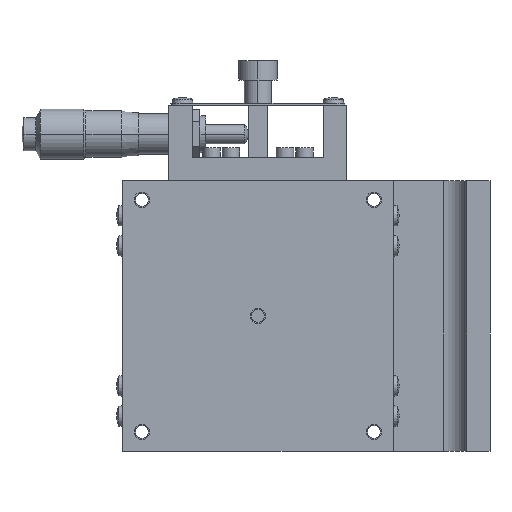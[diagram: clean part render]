
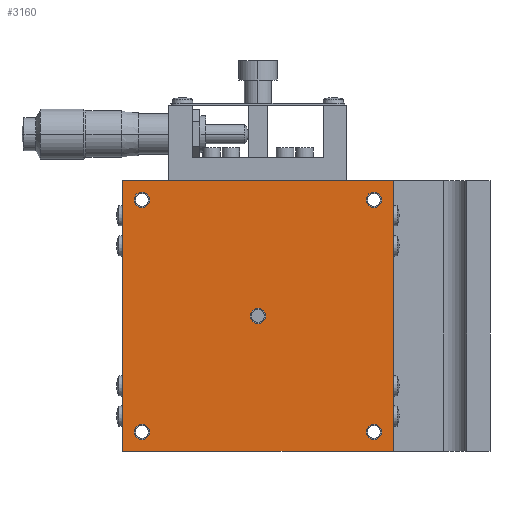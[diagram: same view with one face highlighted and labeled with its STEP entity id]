
A CAD part, left-side view. The second image highlights one B-rep face of the part: STEP entity #3160.
In plain terms, the highlighted planar face has unit normal (-1, 0, 0).
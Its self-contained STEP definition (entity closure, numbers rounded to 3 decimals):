
#953 = VERTEX_POINT ( 'NONE', #6852 ) ;
#955 = EDGE_CURVE ( 'NONE', #953, #956, #6851, .T. ) ;
#956 = VERTEX_POINT ( 'NONE', #6846 ) ;
#965 = EDGE_CURVE ( 'NONE', #1030, #966, #6796, .T. ) ;
#966 = VERTEX_POINT ( 'NONE', #6791 ) ;
#976 = VERTEX_POINT ( 'NONE', #6907 ) ;
#979 = EDGE_CURVE ( 'NONE', #976, #980, #6902, .T. ) ;
#980 = VERTEX_POINT ( 'NONE', #6897 ) ;
#1030 = VERTEX_POINT ( 'NONE', #7135 ) ;
#1156 = VERTEX_POINT ( 'NONE', #7205 ) ;
#1173 = VERTEX_POINT ( 'NONE', #7377 ) ;
#1175 = EDGE_CURVE ( 'NONE', #1173, #1176, #7376, .T. ) ;
#1176 = VERTEX_POINT ( 'NONE', #7371 ) ;
#1179 = EDGE_CURVE ( 'NONE', #1156, #1180, #7414, .T. ) ;
#1180 = VERTEX_POINT ( 'NONE', #7409 ) ;
#2180 = DIRECTION ( 'NONE',  ( 0., -1., 0. ) ) ;
#2181 = VECTOR ( 'NONE', #2180, 1000. ) ;
#2182 = CARTESIAN_POINT ( 'NONE',  ( -35., 95., 35. ) ) ;
#2183 = LINE ( 'NONE', #2182, #2181 ) ;
#2184 = CARTESIAN_POINT ( 'NONE',  ( -35., 95., 35. ) ) ;
#2496 = CARTESIAN_POINT ( 'NONE',  ( -35., 25., 35. ) ) ;
#3127 = EDGE_CURVE ( 'NONE', #3128, #10285, #7686, .T. ) ;
#3128 = VERTEX_POINT ( 'NONE', #7682 ) ;
#3152 = VERTEX_POINT ( 'NONE', #7577 ) ;
#3154 = EDGE_CURVE ( 'NONE', #3152, #9996, #7576, .T. ) ;
#3160 = ADVANCED_FACE ( 'NONE', ( #7659, #7658, #7657, #7656, #7655, #7654 ), #7653, .F. ) ;
#3161 = EDGE_LOOP ( 'NONE', ( #3162, #3164 ) ) ;
#3162 = ORIENTED_EDGE ( 'NONE', *, *, #3163, .F. ) ;
#3163 = EDGE_CURVE ( 'NONE', #1180, #1156, #7648, .T. ) ;
#3164 = ORIENTED_EDGE ( 'NONE', *, *, #1179, .F. ) ;
#3165 = EDGE_LOOP ( 'NONE', ( #3166, #3168 ) ) ;
#3166 = ORIENTED_EDGE ( 'NONE', *, *, #3167, .F. ) ;
#3167 = EDGE_CURVE ( 'NONE', #956, #953, #7643, .T. ) ;
#3168 = ORIENTED_EDGE ( 'NONE', *, *, #955, .F. ) ;
#3169 = EDGE_LOOP ( 'NONE', ( #3170, #3172 ) ) ;
#3170 = ORIENTED_EDGE ( 'NONE', *, *, #3171, .F. ) ;
#3171 = EDGE_CURVE ( 'NONE', #966, #1030, #7637, .T. ) ;
#3172 = ORIENTED_EDGE ( 'NONE', *, *, #965, .F. ) ;
#3173 = EDGE_LOOP ( 'NONE', ( #3174, #3176 ) ) ;
#3174 = ORIENTED_EDGE ( 'NONE', *, *, #3175, .F. ) ;
#3175 = EDGE_CURVE ( 'NONE', #980, #976, #7612, .T. ) ;
#3176 = ORIENTED_EDGE ( 'NONE', *, *, #979, .F. ) ;
#3177 = EDGE_LOOP ( 'NONE', ( #3178, #3180 ) ) ;
#3178 = ORIENTED_EDGE ( 'NONE', *, *, #3179, .F. ) ;
#3179 = EDGE_CURVE ( 'NONE', #1176, #1173, #7608, .T. ) ;
#3180 = ORIENTED_EDGE ( 'NONE', *, *, #1175, .F. ) ;
#3181 = EDGE_LOOP ( 'NONE', ( #3314, #3352, #3348, #3349 ) ) ;
#3314 = ORIENTED_EDGE ( 'NONE', *, *, #3127, .T. ) ;
#3348 = ORIENTED_EDGE ( 'NONE', *, *, #3154, .F. ) ;
#3349 = ORIENTED_EDGE ( 'NONE', *, *, #3350, .T. ) ;
#3350 = EDGE_CURVE ( 'NONE', #3152, #3128, #7720, .T. ) ;
#3352 = ORIENTED_EDGE ( 'NONE', *, *, #9998, .F. ) ;
#6791 = CARTESIAN_POINT ( 'NONE',  ( -35., 90., 32. ) ) ;
#6792 = DIRECTION ( 'NONE',  ( 0., 0., 1. ) ) ;
#6793 = DIRECTION ( 'NONE',  ( -1., 0., 0. ) ) ;
#6794 = CARTESIAN_POINT ( 'NONE',  ( -35., 90., 30. ) ) ;
#6795 = AXIS2_PLACEMENT_3D ( 'NONE', #6794, #6793, #6792 ) ;
#6796 = CIRCLE ( 'NONE', #6795, 2. ) ;
#6846 = CARTESIAN_POINT ( 'NONE',  ( -35., 90., -28. ) ) ;
#6847 = DIRECTION ( 'NONE',  ( 0., 0., 1. ) ) ;
#6848 = DIRECTION ( 'NONE',  ( -1., 0., 0. ) ) ;
#6849 = CARTESIAN_POINT ( 'NONE',  ( -35., 90., -30. ) ) ;
#6850 = AXIS2_PLACEMENT_3D ( 'NONE', #6849, #6848, #6847 ) ;
#6851 = CIRCLE ( 'NONE', #6850, 2. ) ;
#6852 = CARTESIAN_POINT ( 'NONE',  ( -35., 90., -32. ) ) ;
#6897 = CARTESIAN_POINT ( 'NONE',  ( -35., 30., 32. ) ) ;
#6898 = DIRECTION ( 'NONE',  ( 0., 0., 1. ) ) ;
#6899 = DIRECTION ( 'NONE',  ( -1., 0., 0. ) ) ;
#6900 = CARTESIAN_POINT ( 'NONE',  ( -35., 30., 30. ) ) ;
#6901 = AXIS2_PLACEMENT_3D ( 'NONE', #6900, #6899, #6898 ) ;
#6902 = CIRCLE ( 'NONE', #6901, 2. ) ;
#6907 = CARTESIAN_POINT ( 'NONE',  ( -35., 30., 28. ) ) ;
#7135 = CARTESIAN_POINT ( 'NONE',  ( -35., 90., 28. ) ) ;
#7205 = CARTESIAN_POINT ( 'NONE',  ( -35., 60., -2. ) ) ;
#7371 = CARTESIAN_POINT ( 'NONE',  ( -35., 30., -28. ) ) ;
#7372 = DIRECTION ( 'NONE',  ( 0., 0., 1. ) ) ;
#7373 = DIRECTION ( 'NONE',  ( -1., 0., 0. ) ) ;
#7374 = CARTESIAN_POINT ( 'NONE',  ( -35., 30., -30. ) ) ;
#7375 = AXIS2_PLACEMENT_3D ( 'NONE', #7374, #7373, #7372 ) ;
#7376 = CIRCLE ( 'NONE', #7375, 2. ) ;
#7377 = CARTESIAN_POINT ( 'NONE',  ( -35., 30., -32. ) ) ;
#7409 = CARTESIAN_POINT ( 'NONE',  ( -35., 60., 2. ) ) ;
#7410 = DIRECTION ( 'NONE',  ( 0., 0., 1. ) ) ;
#7411 = DIRECTION ( 'NONE',  ( -1., 0., 0. ) ) ;
#7412 = CARTESIAN_POINT ( 'NONE',  ( -35., 60., 0. ) ) ;
#7413 = AXIS2_PLACEMENT_3D ( 'NONE', #7412, #7411, #7410 ) ;
#7414 = CIRCLE ( 'NONE', #7413, 2. ) ;
#7576 = LINE ( 'NONE', #7667, #7666 ) ;
#7577 = CARTESIAN_POINT ( 'NONE',  ( -35., 95., -35. ) ) ;
#7605 = DIRECTION ( 'NONE',  ( 0., 0., 1. ) ) ;
#7606 = DIRECTION ( 'NONE',  ( -1., 0., 0. ) ) ;
#7607 = AXIS2_PLACEMENT_3D ( 'NONE', #7613, #7606, #7605 ) ;
#7608 = CIRCLE ( 'NONE', #7607, 2. ) ;
#7609 = DIRECTION ( 'NONE',  ( 0., 0., 1. ) ) ;
#7610 = DIRECTION ( 'NONE',  ( -1., 0., 0. ) ) ;
#7611 = AXIS2_PLACEMENT_3D ( 'NONE', #7638, #7610, #7609 ) ;
#7612 = CIRCLE ( 'NONE', #7611, 2. ) ;
#7613 = CARTESIAN_POINT ( 'NONE',  ( -35., 30., -30. ) ) ;
#7633 = DIRECTION ( 'NONE',  ( 0., 0., 1. ) ) ;
#7634 = DIRECTION ( 'NONE',  ( -1., 0., 0. ) ) ;
#7635 = CARTESIAN_POINT ( 'NONE',  ( -35., 90., 30. ) ) ;
#7636 = AXIS2_PLACEMENT_3D ( 'NONE', #7635, #7634, #7633 ) ;
#7637 = CIRCLE ( 'NONE', #7636, 2. ) ;
#7638 = CARTESIAN_POINT ( 'NONE',  ( -35., 30., 30. ) ) ;
#7639 = DIRECTION ( 'NONE',  ( 0., 0., 1. ) ) ;
#7640 = DIRECTION ( 'NONE',  ( -1., 0., 0. ) ) ;
#7641 = CARTESIAN_POINT ( 'NONE',  ( -35., 90., -30. ) ) ;
#7642 = AXIS2_PLACEMENT_3D ( 'NONE', #7641, #7640, #7639 ) ;
#7643 = CIRCLE ( 'NONE', #7642, 2. ) ;
#7644 = DIRECTION ( 'NONE',  ( 0., 0., 1. ) ) ;
#7645 = DIRECTION ( 'NONE',  ( -1., 0., 0. ) ) ;
#7646 = CARTESIAN_POINT ( 'NONE',  ( -35., 60., 0. ) ) ;
#7647 = AXIS2_PLACEMENT_3D ( 'NONE', #7646, #7645, #7644 ) ;
#7648 = CIRCLE ( 'NONE', #7647, 2. ) ;
#7649 = DIRECTION ( 'NONE',  ( 0., 0., -1. ) ) ;
#7650 = DIRECTION ( 'NONE',  ( 1., 0., 0. ) ) ;
#7651 = CARTESIAN_POINT ( 'NONE',  ( -35., 95., 35. ) ) ;
#7652 = AXIS2_PLACEMENT_3D ( 'NONE', #7651, #7650, #7649 ) ;
#7653 = PLANE ( 'NONE',  #7652 ) ;
#7654 = FACE_OUTER_BOUND ( 'NONE', #3181, .T. ) ;
#7655 = FACE_BOUND ( 'NONE', #3177, .T. ) ;
#7656 = FACE_BOUND ( 'NONE', #3173, .T. ) ;
#7657 = FACE_BOUND ( 'NONE', #3169, .T. ) ;
#7658 = FACE_BOUND ( 'NONE', #3165, .T. ) ;
#7659 = FACE_BOUND ( 'NONE', #3161, .T. ) ;
#7665 = DIRECTION ( 'NONE',  ( 0., 0., 1. ) ) ;
#7666 = VECTOR ( 'NONE', #7665, 1000. ) ;
#7667 = CARTESIAN_POINT ( 'NONE',  ( -35., 95., 35. ) ) ;
#7682 = CARTESIAN_POINT ( 'NONE',  ( -35., 25., -35. ) ) ;
#7683 = DIRECTION ( 'NONE',  ( 0., 0., 1. ) ) ;
#7684 = VECTOR ( 'NONE', #7683, 1000. ) ;
#7685 = CARTESIAN_POINT ( 'NONE',  ( -35., 25., 35. ) ) ;
#7686 = LINE ( 'NONE', #7685, #7684 ) ;
#7717 = DIRECTION ( 'NONE',  ( 0., -1., 0. ) ) ;
#7718 = VECTOR ( 'NONE', #7717, 1000. ) ;
#7719 = CARTESIAN_POINT ( 'NONE',  ( -35., 95., -35. ) ) ;
#7720 = LINE ( 'NONE', #7719, #7718 ) ;
#9996 = VERTEX_POINT ( 'NONE', #2184 ) ;
#9998 = EDGE_CURVE ( 'NONE', #9996, #10285, #2183, .T. ) ;
#10285 = VERTEX_POINT ( 'NONE', #2496 ) ;
